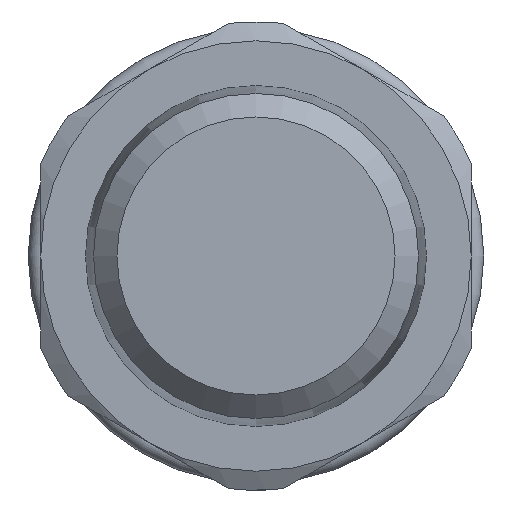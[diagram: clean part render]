
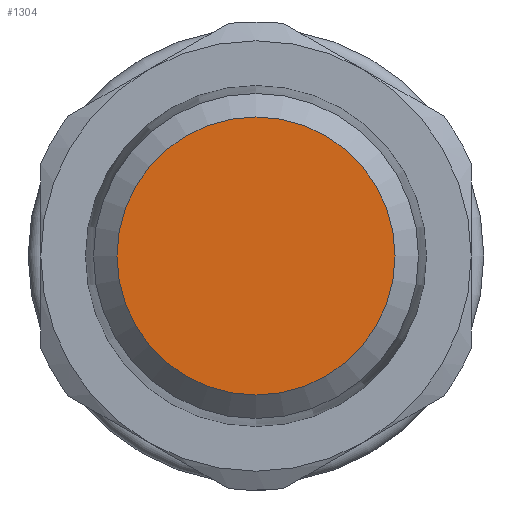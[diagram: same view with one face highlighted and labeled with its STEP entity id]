
A CAD part, left-side view. The second image highlights one B-rep face of the part: STEP entity #1304.
In plain terms, the highlighted planar face has unit normal (-1, 0, 0).
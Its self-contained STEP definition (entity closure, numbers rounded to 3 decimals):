
#212=PLANE($,#1424);
#307=FACE_OUTER_BOUND($,#409,.T.);
#409=EDGE_LOOP($,(#934));
#522=CIRCLE($,#1420,5.491);
#609=VERTEX_POINT($,#2039);
#732=EDGE_CURVE($,#609,#609,#522,.T.);
#934=ORIENTED_EDGE($,*,*,#732,.F.);
#1304=ADVANCED_FACE($,(#307),#212,.F.);
#1420=AXIS2_PLACEMENT_3D($,#2040,#1637,#1638);
#1424=AXIS2_PLACEMENT_3D($,#2046,#1645,#1646);
#1637=DIRECTION('center_axis',(1.,0.,0.));
#1638=DIRECTION('ref_axis',(0.,0.,
-1.));
#1645=DIRECTION('center_axis',(1.,0.,0.));
#1646=DIRECTION('ref_axis',(0.,0.,-1.));
#2039=CARTESIAN_POINT('',(-19.9,0.,5.491));
#2040=CARTESIAN_POINT('Origin',(-19.9,0.,0.));
#2046=CARTESIAN_POINT('Origin',(-19.9,0.,0.));
